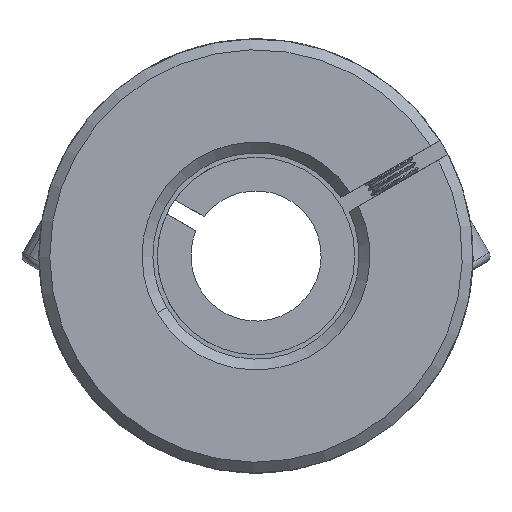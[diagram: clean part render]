
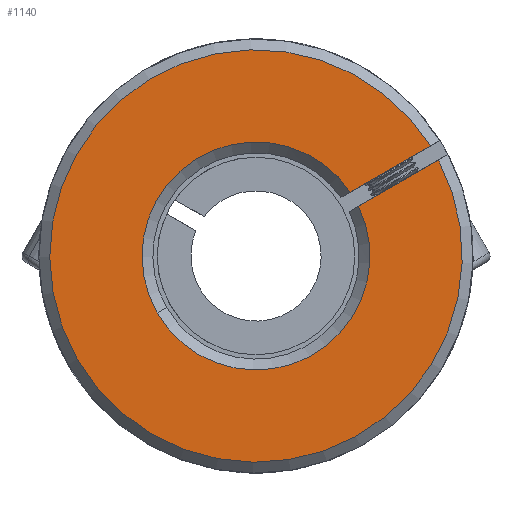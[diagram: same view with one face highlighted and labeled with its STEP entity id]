
A CAD part, front view. The second image highlights one B-rep face of the part: STEP entity #1140.
In plain terms, the highlighted planar face has unit normal (0, -1, 0).
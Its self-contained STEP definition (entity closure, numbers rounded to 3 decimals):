
#111 = DIRECTION ( 'NONE',  ( 0., -1., 0. ) ) ;
#126 = VERTEX_POINT ( 'NONE', #5904 ) ;
#310 = EDGE_CURVE ( 'NONE', #8292, #3413, #987, .T. ) ;
#987 = CIRCLE ( 'NONE', #1393, 10.5 ) ;
#1140 = ADVANCED_FACE ( 'NONE', ( #1449 ), #2371, .F. ) ;
#1175 = CARTESIAN_POINT ( 'NONE',  ( -1.447, -31.239, 40. ) ) ;
#1393 = AXIS2_PLACEMENT_3D ( 'NONE', #13888, #6197, #4182 ) ;
#1449 = FACE_OUTER_BOUND ( 'NONE', #6923, .T. ) ;
#1471 = ORIENTED_EDGE ( 'NONE', *, *, #310, .T. ) ;
#2371 = PLANE ( 'NONE',  #7244 ) ;
#2420 = DIRECTION ( 'NONE',  ( 0., 1., 0. ) ) ;
#2839 = DIRECTION ( 'NONE',  ( 0.866, 0., 0.5 ) ) ;
#3054 = ORIENTED_EDGE ( 'NONE', *, *, #4440, .T. ) ;
#3063 = CARTESIAN_POINT ( 'NONE',  ( 7.997, -31.239, 44.59 ) ) ;
#3413 = VERTEX_POINT ( 'NONE', #11942 ) ;
#4182 = DIRECTION ( 'NONE',  ( 0.5, 0., -0.866 ) ) ;
#4440 = EDGE_CURVE ( 'NONE', #3413, #126, #10285, .T. ) ;
#5150 = CIRCLE ( 'NONE', #5460, 19. ) ;
#5442 = CARTESIAN_POINT ( 'NONE',  ( 6.378, -31.239, 45.387 ) ) ;
#5448 = DIRECTION ( 'NONE',  ( 0.5, 0., -0.866 ) ) ;
#5460 = AXIS2_PLACEMENT_3D ( 'NONE', #1175, #111, #5448 ) ;
#5508 = VECTOR ( 'NONE', #13002, 1000. ) ;
#5624 = ORIENTED_EDGE ( 'NONE', *, *, #11320, .F. ) ;
#5705 = CARTESIAN_POINT ( 'NONE',  ( 14.616, -31.239, 50.147 ) ) ;
#5789 = CARTESIAN_POINT ( 'NONE',  ( 52.98, -31.239, 45.743 ) ) ;
#5841 = LINE ( 'NONE', #5442, #5508 ) ;
#5904 = CARTESIAN_POINT ( 'NONE',  ( 7.246, -31.239, 45.889 ) ) ;
#6140 = EDGE_CURVE ( 'NONE', #13086, #126, #5841, .T. ) ;
#6197 = DIRECTION ( 'NONE',  ( 0., 1., 0. ) ) ;
#6816 = VERTEX_POINT ( 'NONE', #6900 ) ;
#6900 = CARTESIAN_POINT ( 'NONE',  ( 15.367, -31.239, 48.848 ) ) ;
#6923 = EDGE_LOOP ( 'NONE', ( #5624, #1471, #3054, #11516, #8082 ) ) ;
#7005 = DIRECTION ( 'NONE',  ( 0., 1., 0. ) ) ;
#7193 = EDGE_CURVE ( 'NONE', #13086, #6816, #5150, .T. ) ;
#7244 = AXIS2_PLACEMENT_3D ( 'NONE', #5789, #2420, #11086 ) ;
#7895 = CARTESIAN_POINT ( 'NONE',  ( 7.128, -31.239, 44.088 ) ) ;
#7955 = AXIS2_PLACEMENT_3D ( 'NONE', #9185, #7005, #13486 ) ;
#8082 = ORIENTED_EDGE ( 'NONE', *, *, #7193, .T. ) ;
#8292 = VERTEX_POINT ( 'NONE', #3063 ) ;
#9185 = CARTESIAN_POINT ( 'NONE',  ( -1.447, -31.239, 40. ) ) ;
#10166 = VECTOR ( 'NONE', #2839, 1000. ) ;
#10285 = CIRCLE ( 'NONE', #7955, 10.5 ) ;
#11086 = DIRECTION ( 'NONE',  ( 0.5, 0., -0.866 ) ) ;
#11320 = EDGE_CURVE ( 'NONE', #8292, #6816, #13711, .T. ) ;
#11516 = ORIENTED_EDGE ( 'NONE', *, *, #6140, .F. ) ;
#11942 = CARTESIAN_POINT ( 'NONE',  ( -10.539, -31.239, 34.747 ) ) ;
#13002 = DIRECTION ( 'NONE',  ( -0.866, 0., -0.5 ) ) ;
#13086 = VERTEX_POINT ( 'NONE', #5705 ) ;
#13486 = DIRECTION ( 'NONE',  ( 0.5, 0., -0.866 ) ) ;
#13711 = LINE ( 'NONE', #7895, #10166 ) ;
#13888 = CARTESIAN_POINT ( 'NONE',  ( -1.447, -31.239, 40. ) ) ;
